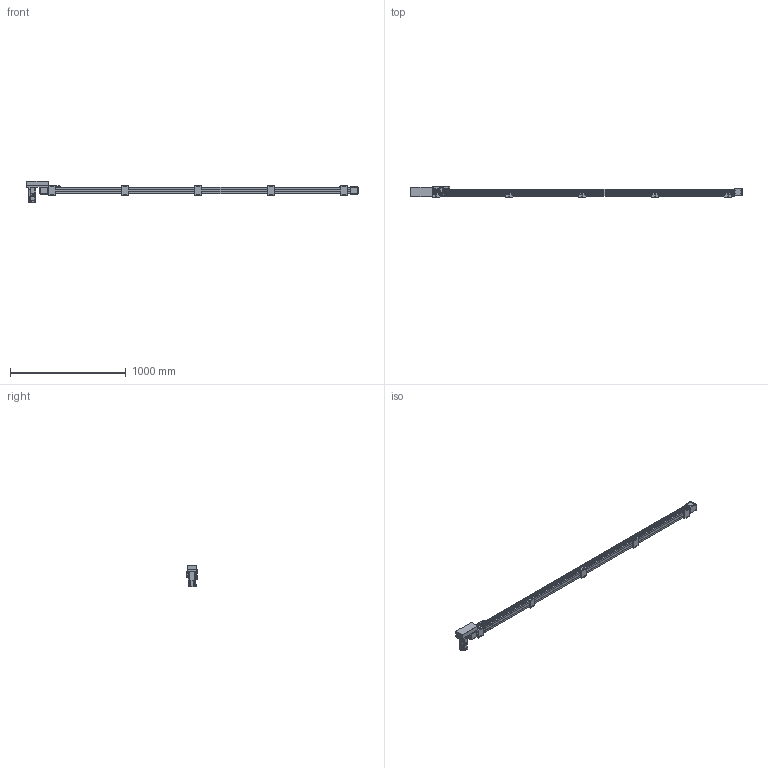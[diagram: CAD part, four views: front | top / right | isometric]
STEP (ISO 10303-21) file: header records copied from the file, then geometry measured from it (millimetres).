
FILE_DESCRIPTION(/* description */ ('STEP AP214'),/* implementation_level */ '2;1');
FILE_NAME(/* name */ 'SK60-P13-S2450-R-T40-C1-N(0)',/* time_stamp */ '2023-04-06T04:28:33+02:00',/* author */ ('License CC BY-ND 4.0'),/* organization */ ('CADENAS'),/* preprocessor_version */ 'ST-DEVELOPER v19.3',/* originating_system */ 'PARTsolutions',/* authorisation */ ' ');
FILE_SCHEMA (('AUTOMOTIVE_DESIGN {1 0 10303 214 3 1 1}'));
Length unit declared in the file: millimetre
Products named in the file (10): SK60-P13-S2450-R-T40-C1-N(0); PSC140-sensor; SK60-S450_seat; SK60-S450-BL-C1_slider; SK60_body3; SK60_body6; SK60-BL_body2; T40-p1; SK60-R_fb; SK60-S2450-R-C1_body
Assembly tree (19 placements, depth 2):
  SK60-P13-S2450-R-T40-C1-N(0)
    PSC140-sensor  x3
    SK60-S450_seat  x5
    SK60-S450-BL-C1_slider
    SK60_body3  x3
    SK60_body6  x2
    SK60-BL_body2  x2
    T40-p1
    SK60-R_fb
    SK60-S2450-R-C1_body
Bounding box: 2870.5 x 90 x 189.7 mm (x, y, z)
Volume: 10528687.3 mm3; surface area: 1239149.6 mm2
Topology: 19 solids, 19 shells, 942 faces, 2342 edges, 1541 vertices
Faces by surface type: plane 596, cylinder 310, cone 34, torus 2
Full cylindrical faces by diameter (mm): 2.8 x3, 3.3 x4, 4 x2, 4.5 x30, 4.6 x3, 4.917 x28, 5 x6, 5.478 x4, 5.5 x31, 6.5 x10, 7 x2, 8 x4, 8.5 x4, 9.988 x4, 10 x20, 14 x1, 47 x3, 50 x2
Entity records: 18679 total; most frequent: DIRECTION 3190, CARTESIAN_POINT 3153, ORIENTED_EDGE 2940, EDGE_CURVE 1470, AXIS2_PLACEMENT_3D 1071, LINE 1048, VECTOR 1048, VERTEX_POINT 1034
